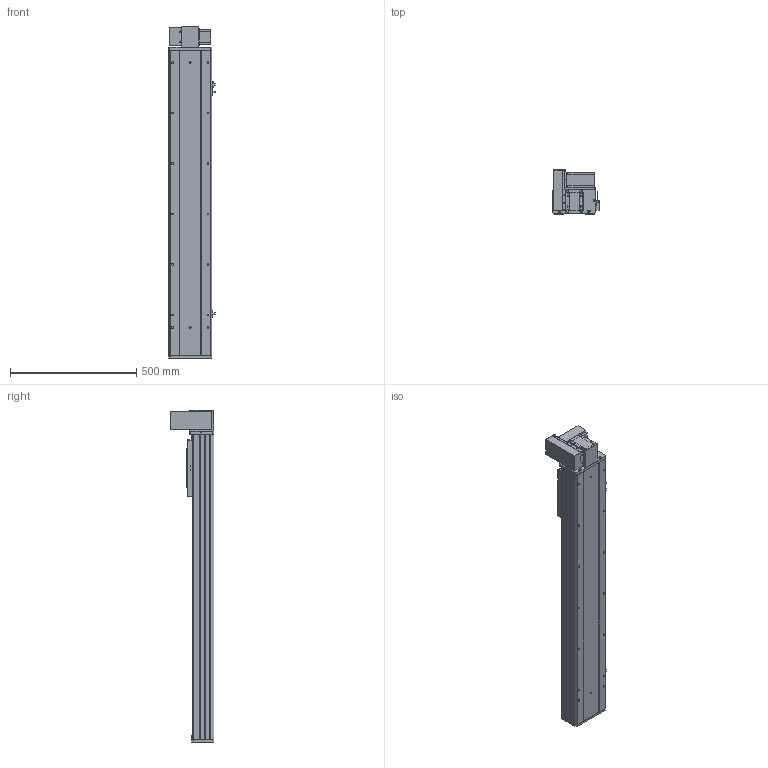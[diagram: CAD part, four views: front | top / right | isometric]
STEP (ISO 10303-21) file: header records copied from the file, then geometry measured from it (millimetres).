
FILE_DESCRIPTION (( 'STEP AP203' ), '1' );
FILE_NAME ('Y170CB-D105-S900-UL-P400W.STEP', '2020-02-20T02:19:24', ( '微软用户' ), ( '微软中国' ), 'SwSTEP 2.0', 'SolidWorks 2017', '' );
FILE_SCHEMA (( 'CONFIG_CONTROL_DESIGN' ));
Length unit declared in the file: millimetre
Products named in the file (18): san松下电机400不带刹车----; Y100-135俋离換覜ん--; 70CB-掛极-; Y170CB-陔俋离換覜結え---; --70CB --喘謫眊楊擘啣-; 70B喘謫眊----; 70CB-耜裔啣-; Y1埴倛裔; 70C--詩湍揤踡え-; 17B-耜蚾蟀諉啣----; 70CB--耜裔; 00B-俋欶BM--163; 70C-雄赽釱-奻-; B-源倛裔啣; Y170CB-D105-S900-UL-P400W; 0C--雄赽釱俋欶-170; 0B-萇儂楊擘啣; 70CB-詩湍--
Assembly tree (21 placements, depth 2):
  Y170CB-D105-S900-UL-P400W
    B-源倛裔啣
    0B-萇儂楊擘啣
    san松下电机400不带刹车----
    70CB-掛极-
    --70CB --喘謫眊楊擘啣-
    70CB-耜裔啣-  x2
    70C--詩湍揤踡え-  x2
    70CB--耜裔
    70C-雄赽釱-奻-
    0C--雄赽釱俋欶-170
    70CB-詩湍--
    Y100-135俋离換覜ん--  x3
    Y170CB-陔俋离換覜結え---
    70B喘謫眊----
    Y1埴倛裔
    17B-耜蚾蟀諉啣----
    00B-俋欶BM--163
Bounding box: 183.5 x 174 x 1316 mm (x, y, z)
Volume: 6145180.3 mm3; surface area: 2200642.7 mm2
Topology: 21 solids, 21 shells, 1007 faces, 2693 edges, 1786 vertices
Faces by surface type: cylinder 521, plane 462, cone 24
Entity records: 32036 total; most frequent: CARTESIAN_POINT 5856, DIRECTION 5210, ORIENTED_EDGE 4868, EDGE_CURVE 2434, AXIS2_PLACEMENT_3D 1908, VERTEX_POINT 1616, LINE 1394, VECTOR 1394
